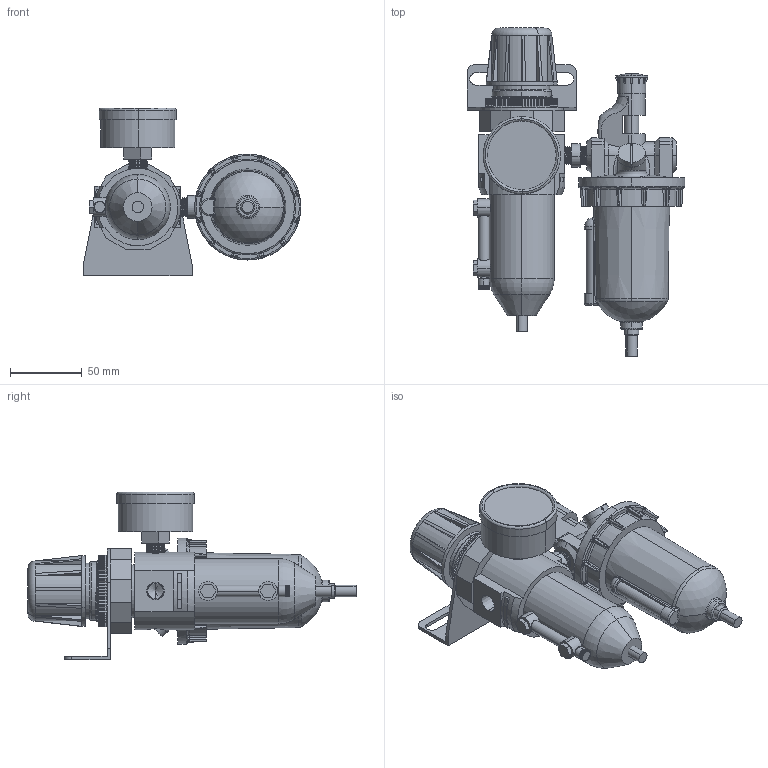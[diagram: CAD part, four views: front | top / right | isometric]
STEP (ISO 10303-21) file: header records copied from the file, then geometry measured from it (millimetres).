
FILE_DESCRIPTION (( 'STEP AP203' ), '1' );
FILE_NAME ('U658W-02#YB#.STEP', '2016-01-14T17:16:54', ( '' ), ( '' ), 'SwSTEP 2.0', 'SolidWorks 2014', '' );
FILE_SCHEMA (( 'CONFIG_CONTROL_DESIGN' ));
Length unit declared in the file: millimetre
Products named in the file (24): KWSAR10Y57-1; KWSAR10Y57; 50-P-AD=1-4PT-1; L606W-02-刻度計; 1-4-圓; U658W-02#YB#; D011W-6; KWR10X51; R010-4; D011W-5; L606-W-02; L606-W-06-3; 50-P-AD=1-4PT.SLDPRT; L606-W-04-1; L606-W-06-5; D011W-4; B011W-02#YGB#; 50-P-AD=1-4PT-2; B011W-1; D011W-04-刻度計; R010-上半部; L606W-02; L606-W-06-4; R010-3
Assembly tree (26 placements, depth 5):
  U658W-02#YB#
    B011W-02#YGB#
      B011W-1
      50-P-AD=1-4PT.SLDPRT
        50-P-AD=1-4PT-1
        50-P-AD=1-4PT-2
      L606-W-06-5
      R010-上半部
        R010-3
        R010-4
        KWSAR10Y57
          KWSAR10Y57-1
          KWR10X51
      D011W-04-刻度計
        D011W-5  x2
        D011W-4
        D011W-6
    L606W-02
      L606-W-06-5
      L606-W-06-4
      L606-W-06-3  x2
      L606-W-04-1
      L606-W-02
      L606W-02-刻度計
    1-4-圓
Bounding box: 151.75 x 229 x 117 mm (x, y, z)
Volume: 723427.7 mm3; surface area: 124495.7 mm2
Topology: 21 solids, 21 shells, 1219 faces, 3240 edges, 2054 vertices
Faces by surface type: plane 652, cylinder 276, bspline 122, cone 89, torus 47, sphere 33
Entity records: 51063 total; most frequent: CARTESIAN_POINT 19958, ORIENTED_EDGE 6296, DIRECTION 5644, EDGE_CURVE 3148, VERTEX_POINT 2018, AXIS2_PLACEMENT_3D 1977, VECTOR 1690, LINE 1690
